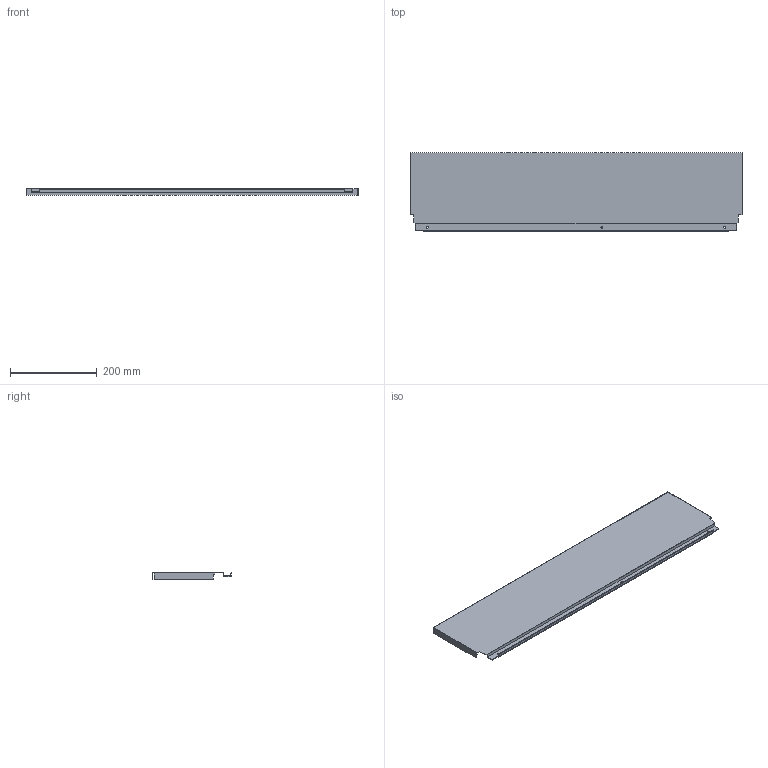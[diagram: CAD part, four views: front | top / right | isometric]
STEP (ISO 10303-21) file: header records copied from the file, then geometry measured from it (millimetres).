
FILE_DESCRIPTION (( 'STEP AP214' ), '1' );
FILE_NAME ('_DWD_XP Stahlrückwand_H182_KAB850_S16.step', '2010-07-08T12:57:37', ( 'grass' ), ( '' ), 'SwSTEP 2.0', 'SolidWorks 2010', '' );
FILE_SCHEMA (( 'AUTOMOTIVE_DESIGN' ));
Length unit declared in the file: millimetre
Products named in the file (1): _DWD_XP Stahlrückwand_H182_KAB850_S16
Bounding box: 767 x 182.49 x 16 mm (x, y, z)
Volume: 143985.5 mm3; surface area: 333092 mm2
Topology: 1 solids, 1 shells, 46 faces, 132 edges, 88 vertices
Faces by surface type: plane 40, cylinder 6
Entity records: 1534 total; most frequent: CARTESIAN_POINT 267, ORIENTED_EDGE 264, DIRECTION 238, EDGE_CURVE 132, LINE 120, VECTOR 120, VERTEX_POINT 88, AXIS2_PLACEMENT_3D 59
